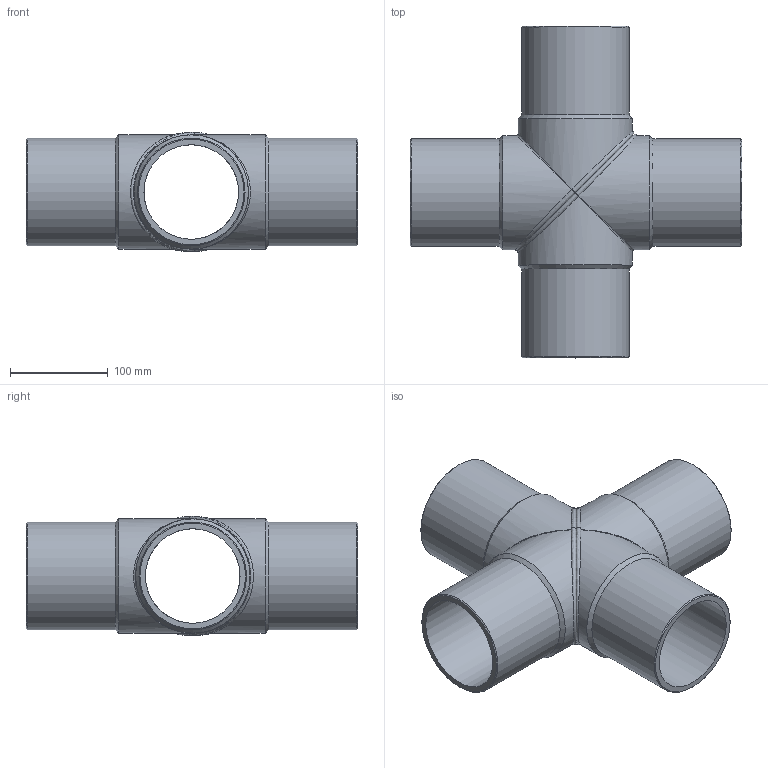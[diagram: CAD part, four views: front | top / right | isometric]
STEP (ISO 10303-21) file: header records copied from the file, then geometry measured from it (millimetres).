
FILE_DESCRIPTION(/* description */ ('Unknown'),/* implementation_level */ '2;1');
FILE_NAME(/* name */ 'CRP110B',/* time_stamp */ '2022-07-08T10:39:59+02:00',/* author */ ('Unknown'),/* organization */ ('Unknown'),/* preprocessor_version */ 'ST-DEVELOPER v18.102',/* originating_system */ 'Solid Edge',/* authorisation */ 'Unknown');
FILE_SCHEMA (('AUTOMOTIVE_DESIGN {1 0 10303 214 3 1 1}'));
Length unit declared in the file: millimetre
Products named in the file (3): CRP110B; CRP110B_mir1
Assembly tree (2 placements, depth 2):
  CRP110B
    CRP110B
    CRP110B_mir1
Bounding box: 339.5 x 339.5 x 121.99 mm (x, y, z)
Volume: 1379921.2 mm3; surface area: 376073.9 mm2
Topology: 2 solids, 2 shells, 32 faces, 90 edges, 60 vertices
Faces by surface type: cylinder 12, cone 8, plane 6, bspline 6
Full cylindrical faces by diameter (mm): 96.8 x4, 110 x4, 117 x4
Entity records: 3005 total; most frequent: CARTESIAN_POINT 2277, DIRECTION 126, ORIENTED_EDGE 120, AXIS2_PLACEMENT_3D 63, EDGE_CURVE 60, EDGE_LOOP 58, FACE_BOUND 58, VERTEX_POINT 50
